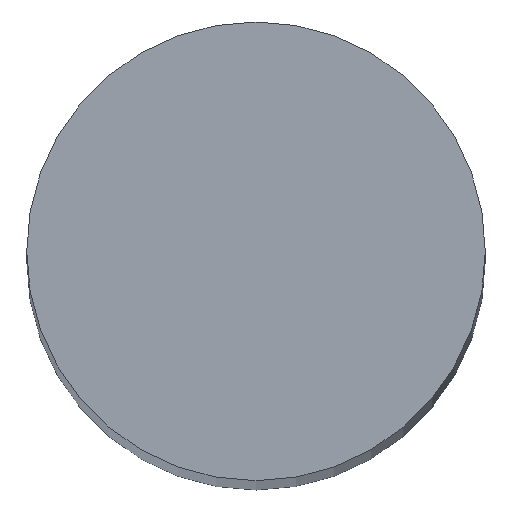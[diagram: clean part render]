
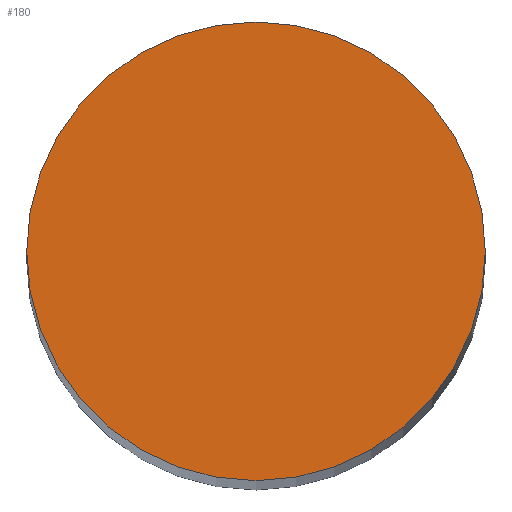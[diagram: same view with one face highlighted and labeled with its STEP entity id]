
A CAD part, top view. The second image highlights one B-rep face of the part: STEP entity #180.
In plain terms, the highlighted planar face has unit normal (0, 0, 1).
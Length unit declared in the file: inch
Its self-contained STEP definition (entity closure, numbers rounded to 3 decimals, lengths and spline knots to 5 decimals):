
#133=CARTESIAN_POINT('',(0.0,-0.0625,1.5));
#134=VERTEX_POINT('',#133);
#142=CARTESIAN_POINT('',(0.0,0.0625,1.5));
#143=VERTEX_POINT('',#142);
#150=CARTESIAN_POINT('',(0.0,0.0,1.5));
#151=DIRECTION('',(0.0,-0.0,-1.0));
#152=DIRECTION('',(0.0,1.0,-0.0));
#153=AXIS2_PLACEMENT_3D('',#150,#151,#152);
#154=CIRCLE('',#153,0.0625);
#155=EDGE_CURVE('no 1299',#143,#134,#154,.T.);
#165=CARTESIAN_POINT('',(0.0,0.0,1.5));
#166=DIRECTION('',(0.0,-0.0,-1.0));
#167=DIRECTION('',(0.0,1.0,-0.0));
#168=AXIS2_PLACEMENT_3D('',#165,#166,#167);
#169=CIRCLE('',#168,0.0625);
#170=EDGE_CURVE('no 1303',#134,#143,#169,.T.);
#171=ORIENTED_EDGE('',*,*,#170,.F.);
#172=ORIENTED_EDGE('',*,*,#155,.F.);
#173=EDGE_LOOP('',(#171,#172));
#174=FACE_OUTER_BOUND('',#173,.T.);
#175=CARTESIAN_POINT('',(0.0625,0.0,1.5));
#176=DIRECTION('',(0.0,0.0,1.0));
#177=DIRECTION('',(0.0,-1.0,0.0));
#178=AXIS2_PLACEMENT_3D('',#175,#176,#177);
#179=PLANE('',#178);
#180=ADVANCED_FACE('no 1393',(#174),#179,.T.);
